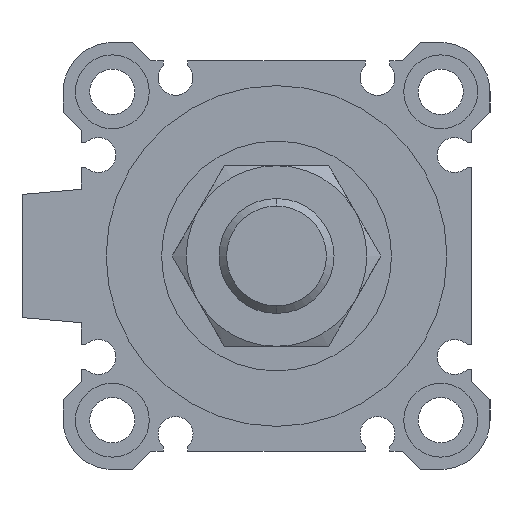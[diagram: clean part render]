
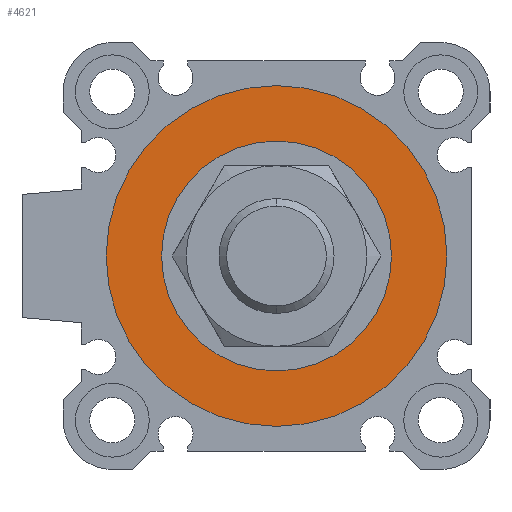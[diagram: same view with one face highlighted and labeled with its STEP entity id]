
A CAD part, left-side view. The second image highlights one B-rep face of the part: STEP entity #4621.
In plain terms, the highlighted planar face has unit normal (-1, 0, 0).
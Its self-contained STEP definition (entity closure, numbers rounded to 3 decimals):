
#734 = CARTESIAN_POINT ( 'NONE',  ( 3.3, 0., 0. ) ) ;
#820 = CARTESIAN_POINT ( 'NONE',  ( 3.3, 0., 0. ) ) ;
#1352 = DIRECTION ( 'NONE',  ( 0., 0., -1. ) ) ;
#1733 = DIRECTION ( 'NONE',  ( 0., 1., 0. ) ) ;
#1962 = CIRCLE ( 'NONE', #6501, 20.75 ) ;
#1969 = DIRECTION ( 'NONE',  ( 0., 0., -1. ) ) ;
#2073 = CARTESIAN_POINT ( 'NONE',  ( 3.3, 0., 14. ) ) ;
#2193 = CIRCLE ( 'NONE', #6166, 20.75 ) ;
#2295 = PLANE ( 'NONE',  #6830 ) ;
#2376 = ORIENTED_EDGE ( 'NONE', *, *, #3961, .T. ) ;
#2404 = FACE_OUTER_BOUND ( 'NONE', #4032, .T. ) ;
#3172 = CIRCLE ( 'NONE', #4209, 14. ) ;
#3426 = VERTEX_POINT ( 'NONE', #4793 ) ;
#3501 = VERTEX_POINT ( 'NONE', #4438 ) ;
#3671 = DIRECTION ( 'NONE',  ( 0., 0., -1. ) ) ;
#3788 = ORIENTED_EDGE ( 'NONE', *, *, #6669, .F. ) ;
#3960 = VERTEX_POINT ( 'NONE', #4112 ) ;
#3961 = EDGE_CURVE ( 'NONE', #5403, #3426, #3172, .T. ) ;
#4032 = EDGE_LOOP ( 'NONE', ( #5614, #3788 ) ) ;
#4112 = CARTESIAN_POINT ( 'NONE',  ( 3.3, 0., -20.75 ) ) ;
#4209 = AXIS2_PLACEMENT_3D ( 'NONE', #5128, #6305, #1969 ) ;
#4211 = CARTESIAN_POINT ( 'NONE',  ( 3.3, 0., 0. ) ) ;
#4248 = CIRCLE ( 'NONE', #4697, 14. ) ;
#4319 = ORIENTED_EDGE ( 'NONE', *, *, #6045, .T. ) ;
#4438 = CARTESIAN_POINT ( 'NONE',  ( 3.3, 0., 20.75 ) ) ;
#4440 = FACE_BOUND ( 'NONE', #5051, .T. ) ;
#4621 = ADVANCED_FACE ( 'NONE', ( #2404, #4440 ), #2295, .F. ) ;
#4697 = AXIS2_PLACEMENT_3D ( 'NONE', #820, #5582, #1352 ) ;
#4793 = CARTESIAN_POINT ( 'NONE',  ( 3.3, 0., -14. ) ) ;
#5051 = EDGE_LOOP ( 'NONE', ( #2376, #4319 ) ) ;
#5128 = CARTESIAN_POINT ( 'NONE',  ( 3.3, 0., 0. ) ) ;
#5392 = DIRECTION ( 'NONE',  ( 1., 0., 0. ) ) ;
#5403 = VERTEX_POINT ( 'NONE', #2073 ) ;
#5582 = DIRECTION ( 'NONE',  ( 1., 0., 0. ) ) ;
#5614 = ORIENTED_EDGE ( 'NONE', *, *, #6124, .F. ) ;
#6045 = EDGE_CURVE ( 'NONE', #3426, #5403, #4248, .T. ) ;
#6124 = EDGE_CURVE ( 'NONE', #3501, #3960, #1962, .T. ) ;
#6166 = AXIS2_PLACEMENT_3D ( 'NONE', #6490, #5392, #7019 ) ;
#6207 = DIRECTION ( 'NONE',  ( 1., 0., 0. ) ) ;
#6305 = DIRECTION ( 'NONE',  ( 1., 0., 0. ) ) ;
#6363 = DIRECTION ( 'NONE',  ( 1., 0., 0. ) ) ;
#6490 = CARTESIAN_POINT ( 'NONE',  ( 3.3, 0., 0. ) ) ;
#6501 = AXIS2_PLACEMENT_3D ( 'NONE', #4211, #6363, #3671 ) ;
#6669 = EDGE_CURVE ( 'NONE', #3960, #3501, #2193, .T. ) ;
#6830 = AXIS2_PLACEMENT_3D ( 'NONE', #734, #6207, #1733 ) ;
#7019 = DIRECTION ( 'NONE',  ( 0., 0., -1. ) ) ;
